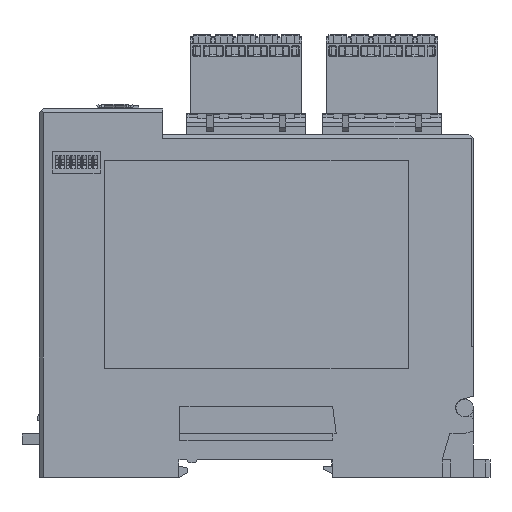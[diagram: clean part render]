
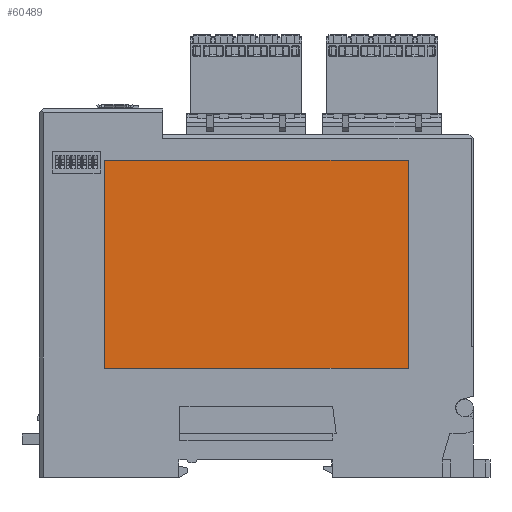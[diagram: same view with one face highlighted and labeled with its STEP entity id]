
A CAD part, left-side view. The second image highlights one B-rep face of the part: STEP entity #60489.
In plain terms, the highlighted planar face has unit normal (-1, 0, 0).
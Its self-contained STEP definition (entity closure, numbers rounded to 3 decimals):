
#3567 = EDGE_CURVE ( 'NONE', #28395, #10709, #68557, .T. ) ;
#8711 = ORIENTED_EDGE ( 'NONE', *, *, #85807, .T. ) ;
#8992 = DIRECTION ( 'NONE',  ( 0., 0., 1. ) ) ;
#9895 = VECTOR ( 'NONE', #14857, 1000. ) ;
#10709 = VERTEX_POINT ( 'NONE', #17219 ) ;
#14857 = DIRECTION ( 'NONE',  ( 0., 0., -1. ) ) ;
#15308 = VERTEX_POINT ( 'NONE', #51747 ) ;
#17219 = CARTESIAN_POINT ( 'NONE',  ( -14.7, 35.01, 30.55 ) ) ;
#23682 = CARTESIAN_POINT ( 'NONE',  ( -14.7, 35.01, -17.46 ) ) ;
#24818 = CARTESIAN_POINT ( 'NONE',  ( -14.7, 35.01, 30.55 ) ) ;
#25131 = DIRECTION ( 'NONE',  ( 0., -1., 0. ) ) ;
#26092 = EDGE_CURVE ( 'NONE', #10709, #29600, #67398, .T. ) ;
#28395 = VERTEX_POINT ( 'NONE', #67610 ) ;
#29600 = VERTEX_POINT ( 'NONE', #84768 ) ;
#31114 = EDGE_CURVE ( 'NONE', #29600, #15308, #47749, .T. ) ;
#31957 = ORIENTED_EDGE ( 'NONE', *, *, #31114, .T. ) ;
#37003 = VECTOR ( 'NONE', #25131, 1000. ) ;
#38941 = FACE_OUTER_BOUND ( 'NONE', #42369, .T. ) ;
#41802 = ORIENTED_EDGE ( 'NONE', *, *, #3567, .T. ) ;
#42369 = EDGE_LOOP ( 'NONE', ( #31957, #8711, #41802, #46706 ) ) ;
#46420 = DIRECTION ( 'NONE',  ( 0., 0., 1. ) ) ;
#46706 = ORIENTED_EDGE ( 'NONE', *, *, #26092, .T. ) ;
#47749 = LINE ( 'NONE', #54141, #37003 ) ;
#50298 = VECTOR ( 'NONE', #69036, 1000. ) ;
#51747 = CARTESIAN_POINT ( 'NONE',  ( -14.7, -35., -17.46 ) ) ;
#54141 = CARTESIAN_POINT ( 'NONE',  ( -14.7, 35.01, -17.46 ) ) ;
#60100 = DIRECTION ( 'NONE',  ( -1., 0., 0. ) ) ;
#60489 = ADVANCED_FACE ( 'NONE', ( #38941 ), #61060, .T. ) ;
#61060 = PLANE ( 'NONE',  #83640 ) ;
#61559 = CARTESIAN_POINT ( 'NONE',  ( -14.7, 0., 0. ) ) ;
#67398 = LINE ( 'NONE', #23682, #9895 ) ;
#67549 = CARTESIAN_POINT ( 'NONE',  ( -14.7, -35., -17.46 ) ) ;
#67610 = CARTESIAN_POINT ( 'NONE',  ( -14.7, -35., 30.55 ) ) ;
#68557 = LINE ( 'NONE', #24818, #50298 ) ;
#69036 = DIRECTION ( 'NONE',  ( 0., 1., 0. ) ) ;
#82754 = LINE ( 'NONE', #67549, #87018 ) ;
#83640 = AXIS2_PLACEMENT_3D ( 'NONE', #61559, #60100, #8992 ) ;
#84768 = CARTESIAN_POINT ( 'NONE',  ( -14.7, 35.01, -17.46 ) ) ;
#85807 = EDGE_CURVE ( 'NONE', #15308, #28395, #82754, .T. ) ;
#87018 = VECTOR ( 'NONE', #46420, 1000. ) ;
